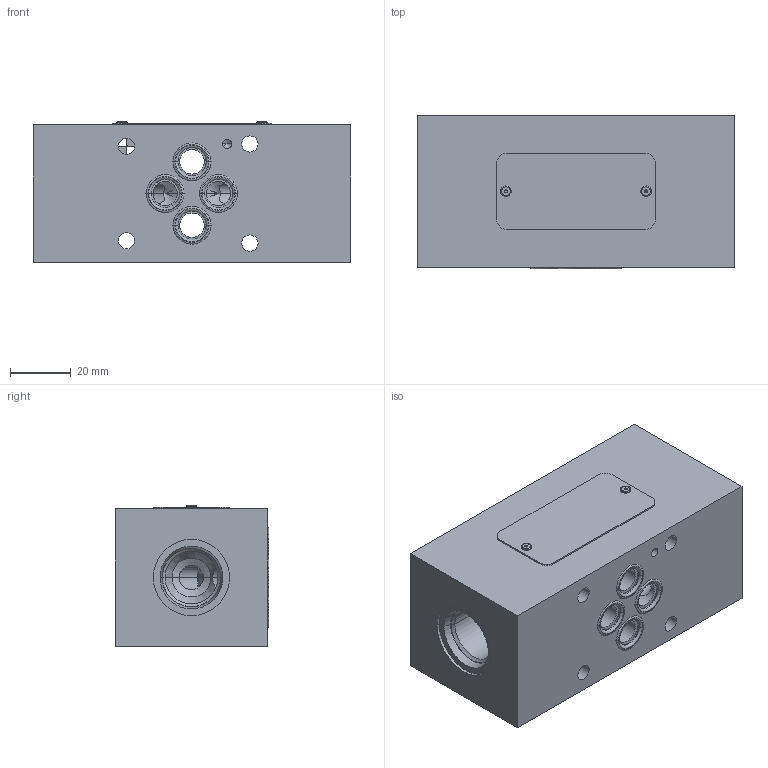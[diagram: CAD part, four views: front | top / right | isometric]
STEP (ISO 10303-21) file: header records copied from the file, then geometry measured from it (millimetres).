
FILE_DESCRIPTION((''),'2;1');
FILE_NAME('1000129465_ASM','2023-10-12T',('l.soukupova'),(''),'PRO/ENGINEER BY PARAMETRIC TECHNOLOGY CORPORATION, 2015440','PRO/ENGINEER BY PARAMETRIC TECHNOLOGY CORPORATION, 2015440','');
FILE_SCHEMA(('AUTOMOTIVE_DESIGN { 1 0 10303 214 1 1 1 1 }'));
Length unit declared in the file: millimetre
Products named in the file (5): 27883702; RD_LABEL_25X52_159703; AF_1932_16485; ORAR00012_201524; 1000129465_ASM
Assembly tree (8 placements, depth 2):
  1000129465_ASM
    27883702
    RD_LABEL_25X52_159703
    AF_1932_16485  x2
    ORAR00012_201524  x4
Bounding box: 104 x 50.38 x 46 mm (x, y, z)
Volume: 205012.2 mm3; surface area: 40945.7 mm2
Topology: 8 solids, 12 shells, 211 faces, 623 edges, 501 vertices
Faces by surface type: cylinder 100, cone 39, plane 36, torus 36
Entity records: 9218 total; most frequent: CARTESIAN_POINT 1879, DIRECTION 1062, ORIENTED_EDGE 734, PRESENTATION_STYLE_ASSIGNMENT 617, STYLED_ITEM 551, CURVE_STYLE 544, AXIS2_PLACEMENT_3D 415, EDGE_CURVE 375
